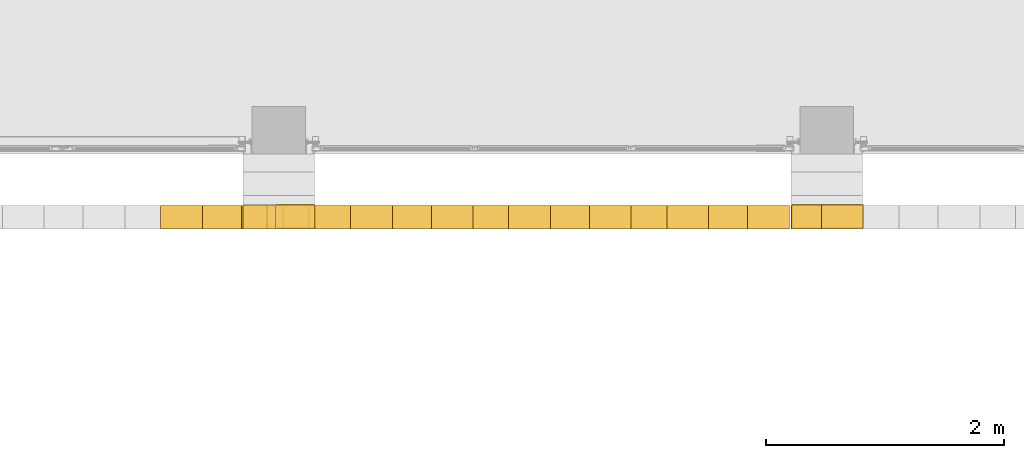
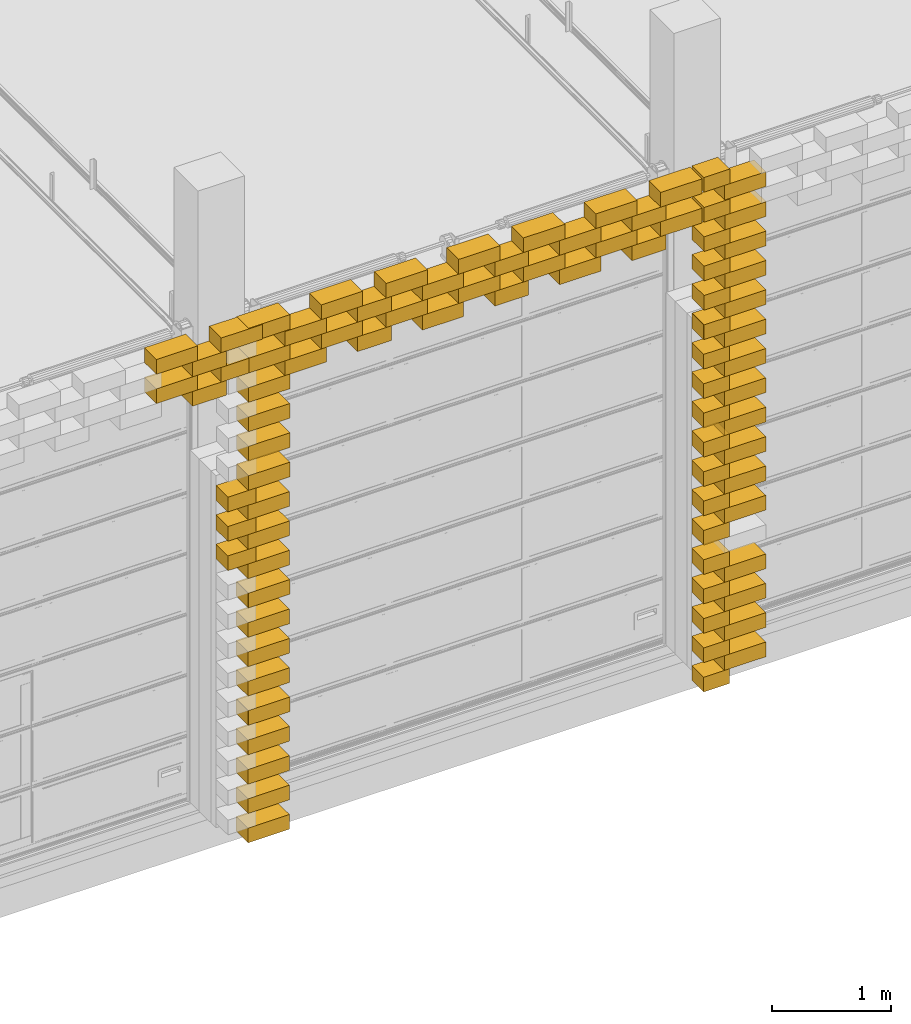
# One storey, part 52 of 62: 91 railings.
"""IFC2X3 building model written with IfcOpenShell, lengths in millimetres."""

from ifc_helpers import new_model, entity, si_unit, converted_unit, derived_unit, money_unit, direction, frame, origin_with_axes, place, context, subcontext, project, spatial, polyline, outline, extrude, material, type_object, element, save


model = new_model("IFC2X3")

# Units and contexts
model_context = context("Model", 3, precision=0.01, world=origin_with_axes(), true_north=direction((0.0, 1.0)))
body_context = subcontext(model_context, "Body", "Model", "MODEL_VIEW")
ifc_project = project(units=[si_unit("LENGTHUNIT", "METRE", prefix="MILLI"), si_unit("AREAUNIT", "SQUARE_METRE"), si_unit("VOLUMEUNIT", "CUBIC_METRE"), converted_unit("PLANEANGLEUNIT", "DEGREE", entity("IfcPlaneAngleMeasure", 0.0174532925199), si_unit("PLANEANGLEUNIT", "RADIAN"), dimensions=[0, 0, 0, 0, 0, 0, 0]), si_unit("SOLIDANGLEUNIT", "STERADIAN"), money_unit("EUR"), converted_unit("TIMEUNIT", "Year", entity("IfcTimeMeasure", 31556926.0), si_unit("TIMEUNIT", "SECOND"), dimensions=[0, 0, 1, 0, 0, 0, 0]), si_unit("MASSUNIT", "GRAM", prefix="KILO"), si_unit("THERMODYNAMICTEMPERATUREUNIT", "DEGREE_CELSIUS"), si_unit("LUMINOUSINTENSITYUNIT", "LUMEN"), si_unit("ENERGYUNIT", "JOULE", prefix="MEGA"), derived_unit("THERMALCONDUCTANCEUNIT", [(si_unit("POWERUNIT", "WATT"), 1), (si_unit("LENGTHUNIT", "METRE"), -1), (si_unit("THERMODYNAMICTEMPERATUREUNIT", "KELVIN"), -1)]), derived_unit("SPECIFICHEATCAPACITYUNIT", [(si_unit("ENERGYUNIT", "JOULE"), 1), (si_unit("MASSUNIT", "GRAM", prefix="KILO"), -1), (si_unit("THERMODYNAMICTEMPERATUREUNIT", "KELVIN"), -1)]), derived_unit("MASSDENSITYUNIT", [(si_unit("MASSUNIT", "GRAM", prefix="KILO"), 1), (si_unit("VOLUMEUNIT", "CUBIC_METRE"), -1)])], contexts=[model_context])

# Site, building, storey
site_placement = place(None, origin_with_axes())
site = spatial("IfcSite", under=ifc_project, at=site_placement, Name="KIRDE 14, ELVA", CompositionType="ELEMENT")
building_placement = place(site_placement, origin_with_axes())
building = spatial("IfcBuilding", under=site, at=building_placement, Name="PPA ja Päästeameti ühishoone", CompositionType="ELEMENT")
storey_placement = place(building_placement, origin_with_axes())
storey = spatial("IfcBuildingStorey", under=building, at=storey_placement, Name="Esimene korrus", CompositionType="ELEMENT", Elevation=0.0)

# Railings
ifc_material = material(Name="Air Space")
railing_type = type_object("IfcRailingType", Name="Air Space 200", PredefinedType="NOTDEFINED")
railing_1_placement = place(storey_placement, frame((14899.2963098, -431.000104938, 1100.0), z_axis=(0.0, 0.0, 1.0), x_axis=(1.0, 2.32830643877e-09, 0.0)))
element("IfcRailing", 1, at=railing_1_placement, inside=storey, type_object=railing_type, material=ifc_material, Name="plokk", PredefinedType="NOTDEFINED", context=body_context, shape_type="SweptSolid", body=[
    extrude(outline(polyline([(0.0, -200.0), (399.999999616, -200.0), (399.999999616, 0.0), (0.0, 0.0), (0.0, -200.0)])), origin_with_axes(), (0.0, 0.0, 1.0), 150.0),
])
railing_2_placement = place(storey_placement, frame((14895.6964951, -431.000104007, 800.0), z_axis=(0.0, 0.0, 1.0), x_axis=(1.0, 0.0, 0.0)))
element("IfcRailing", 2, at=railing_2_placement, inside=storey, type_object=railing_type, material=ifc_material, Name="plokk", PredefinedType="NOTDEFINED", context=body_context, shape_type="SweptSolid", body=[
    extrude(outline(polyline([(0.0, -200.0), (400.00000078, -200.0), (400.00000078, 0.0), (0.0, 0.0), (0.0, -200.0)])), origin_with_axes(), (0.0, 0.0, 1.0), 150.0),
])
railing_3_placement = place(storey_placement, frame((19300.1727355, -431.000104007, 500.0), z_axis=(0.0, 0.0, 1.0), x_axis=(1.0, 3.72529028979e-09, 0.0)))
element("IfcRailing", 3, at=railing_3_placement, inside=storey, type_object=railing_type, material=ifc_material, Name="plokk", PredefinedType="NOTDEFINED", context=body_context, shape_type="SweptSolid", body=[
    extrude(outline(polyline([(0.0, -200.0), (250.000000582, -200.0), (250.000000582, 0.0), (0.0, 0.0), (0.0, -200.0)])), origin_with_axes(), (0.0, 0.0, 1.0), 150.0),
])
railing_4_placement = place(storey_placement, frame((14895.6964951, -431.000104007, -100.0), z_axis=(0.0, 0.0, 1.0), x_axis=(1.0, 0.0, 0.0)))
element("IfcRailing", 4, at=railing_4_placement, inside=storey, type_object=railing_type, material=ifc_material, Name="plokk", PredefinedType="NOTDEFINED", context=body_context, shape_type="SweptSolid", body=[
    extrude(outline(polyline([(0.0, -200.0), (400.00000078, -200.0), (400.00000078, 0.0), (0.0, 0.0), (0.0, -200.0)])), origin_with_axes(), (0.0, 0.0, 1.0), 150.0),
])
for number, where, z_axis, x_axis in (
    (5, (19300.1727355, -431.000104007, 200.0), (0.0, 0.0, 1.0), (1.0, 3.72529028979e-09, 0.0)),
    (6, (19300.1727355, -431.000104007, -100.0), (0.0, 0.0, 1.0), (1.0, 3.72529028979e-09, 0.0)),
):
    element("IfcRailing", number, at=place(storey_placement, frame(where, z_axis=z_axis, x_axis=x_axis)), inside=storey, type_object=railing_type, material=ifc_material, Name="plokk", PredefinedType="NOTDEFINED", context=body_context, shape_type="SweptSolid", body=[
        extrude(outline(polyline([(0.0, -200.0), (250.000000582, -200.0), (250.000000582, 0.0), (0.0, 0.0), (0.0, -200.0)])), origin_with_axes(), (0.0, 0.0, 1.0), 150.0),
    ])
for number, where, z_axis, x_axis in (
    (7, (19500.1727354, -431.000104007, 2750.0), (0.0, 0.0, 1.0), (1.0, 0.0, 0.0)),
    (8, (19500.1727354, -431.000104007, 3350.0), (0.0, 0.0, 1.0), (1.0, 0.0, 0.0)),
):
    element("IfcRailing", number, at=place(storey_placement, frame(where, z_axis=z_axis, x_axis=x_axis)), inside=storey, type_object=railing_type, material=ifc_material, Name="plokk", PredefinedType="NOTDEFINED", context=body_context, shape_type="SweptSolid", body=[
        extrude(outline(polyline([(0.0, -200.0), (400.00000078, -200.0), (400.00000078, 0.0), (0.0, 0.0), (0.0, -200.0)])), origin_with_axes(), (0.0, 0.0, 1.0), 150.0),
    ])
railing_5_placement = place(storey_placement, frame((19306.7115337, -422.760602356, 5000.0), z_axis=(0.0, 0.0, 1.0), x_axis=(1.0, 3.72529028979e-09, 0.0)))
element("IfcRailing", 9, at=railing_5_placement, inside=storey, type_object=railing_type, material=ifc_material, Name="plokk", PredefinedType="NOTDEFINED", context=body_context, shape_type="SweptSolid", body=[
    extrude(outline(polyline([(0.0, -200.0), (250.000000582, -200.0), (250.000000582, 0.0), (0.0, 0.0), (0.0, -200.0)])), origin_with_axes(), (0.0, 0.0, 1.0), 150.0),
])
for number, where, z_axis, x_axis in (
    (10, (19506.7115336, -422.760602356, 4850.0), (0.0, 0.0, 1.0), (1.0, 0.0, 0.0)),
    (11, (19503.7725494, -431.000104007, 3950.0), (0.0, 0.0, 1.0), (1.0, 0.0, 0.0)),
):
    element("IfcRailing", number, at=place(storey_placement, frame(where, z_axis=z_axis, x_axis=x_axis)), inside=storey, type_object=railing_type, material=ifc_material, Name="plokk", PredefinedType="NOTDEFINED", context=body_context, shape_type="SweptSolid", body=[
        extrude(outline(polyline([(0.0, -200.0), (400.00000078, -200.0), (400.00000078, 0.0), (0.0, 0.0), (0.0, -200.0)])), origin_with_axes(), (0.0, 0.0, 1.0), 150.0),
    ])
railing_6_placement = place(storey_placement, frame((14899.2963091, -431.000104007, 3500.0), z_axis=(0.0, 0.0, 1.0), x_axis=(1.0, 0.0, 0.0)))
element("IfcRailing", 12, at=railing_6_placement, inside=storey, type_object=railing_type, material=ifc_material, Name="plokk", PredefinedType="NOTDEFINED", context=body_context, shape_type="SweptSolid", body=[
    extrude(outline(polyline([(2.32830643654e-07, -200.0), (400.000001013, -200.0), (400.00000078, 0.0), (0.0, 0.0), (2.32830643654e-07, -200.0)])), origin_with_axes(), (0.0, 0.0, 1.0), 150.0),
])
for number, where, z_axis, x_axis in (
    (13, (14899.2963091, -431.000104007, 3800.0), (0.0, 0.0, 1.0), (1.0, 0.0, 0.0)),
    (14, (14899.2963091, -431.000104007, 4100.0), (0.0, 0.0, 1.0), (1.0, 0.0, 0.0)),
    (15, (14899.2963091, -431.000104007, 4400.0), (0.0, 0.0, 1.0), (1.0, 0.0, 0.0)),
):
    element("IfcRailing", number, at=place(storey_placement, frame(where, z_axis=z_axis, x_axis=x_axis)), inside=storey, type_object=railing_type, material=ifc_material, Name="plokk", PredefinedType="NOTDEFINED", context=body_context, shape_type="SweptSolid", body=[
        extrude(outline(polyline([(0.0, -200.0), (400.00000078, -200.0), (400.00000078, 0.0), (0.0, 0.0), (0.0, -200.0)])), origin_with_axes(), (0.0, 0.0, 1.0), 150.0),
    ])
railing_7_placement = place(storey_placement, frame((14902.8961238, -431.000104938, 4700.0), z_axis=(0.0, 0.0, 1.0), x_axis=(1.0, 2.32830643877e-09, 0.0)))
element("IfcRailing", 16, at=railing_7_placement, inside=storey, type_object=railing_type, material=ifc_material, Name="plokk", PredefinedType="NOTDEFINED", context=body_context, shape_type="SweptSolid", body=[
    extrude(outline(polyline([(0.0, -200.0), (399.999999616, -200.0), (399.999999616, 0.0), (0.0, 0.0), (0.0, -200.0)])), origin_with_axes(), (0.0, 0.0, 1.0), 150.0),
])
for number, where, z_axis, x_axis in (
    (17, (19503.7725494, -431.000104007, 3650.0), (0.0, 0.0, 1.0), (1.0, 0.0, 0.0)),
    (18, (19503.7725494, -431.000104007, 4250.0), (0.0, 0.0, 1.0), (1.0, 0.0, 0.0)),
    (19, (19503.7725494, -431.000104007, 4550.0), (0.0, 0.0, 1.0), (1.0, 0.0, 0.0)),
):
    element("IfcRailing", number, at=place(storey_placement, frame(where, z_axis=z_axis, x_axis=x_axis)), inside=storey, type_object=railing_type, material=ifc_material, Name="plokk", PredefinedType="NOTDEFINED", context=body_context, shape_type="SweptSolid", body=[
        extrude(outline(polyline([(0.0, -200.0), (400.00000078, -200.0), (400.00000078, 0.0), (0.0, 0.0), (0.0, -200.0)])), origin_with_axes(), (0.0, 0.0, 1.0), 150.0),
    ])
railing_8_placement = place(storey_placement, frame((19303.7725496, -431.000104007, 3500.0), z_axis=(0.0, 0.0, 1.0), x_axis=(1.0, 3.72529028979e-09, 0.0)))
element("IfcRailing", 20, at=railing_8_placement, inside=storey, type_object=railing_type, material=ifc_material, Name="plokk", PredefinedType="NOTDEFINED", context=body_context, shape_type="SweptSolid", body=[
    extrude(outline(polyline([(0.0, -200.0), (250.000000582, -200.0), (250.000000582, 0.0), (0.0, 0.0), (0.0, -200.0)])), origin_with_axes(), (0.0, 0.0, 1.0), 150.0),
])
railing_9_placement = place(storey_placement, frame((16930.1007614, -431.000101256, 5000.0), z_axis=(0.0, 0.0, 1.0), x_axis=(1.0, -2.32830643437e-09, 0.0)))
element("IfcRailing", 21, at=railing_9_placement, inside=storey, type_object=railing_type, material=ifc_material, Name="plokk", PredefinedType="NOTDEFINED", context=body_context, shape_type="SweptSolid", body=[
    extrude(outline(polyline([(0.0, -200.0), (400.000000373, -200.0), (400.000000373, 0.0), (0.0, 0.0), (0.0, -200.0)])), origin_with_axes(), (0.0, 0.0, 1.0), 150.0),
])
railing_10_placement = place(storey_placement, frame((14895.6964951, -431.000104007, 2300.0), z_axis=(0.0, 0.0, 1.0), x_axis=(1.0, 0.0, 0.0)))
element("IfcRailing", 22, at=railing_10_placement, inside=storey, type_object=railing_type, material=ifc_material, Name="plokk", PredefinedType="NOTDEFINED", context=body_context, shape_type="SweptSolid", body=[
    extrude(outline(polyline([(0.0, -200.0), (400.00000078, -200.0), (400.00000078, 0.0), (0.0, 0.0), (0.0, -200.0)])), origin_with_axes(), (0.0, 0.0, 1.0), 150.0),
])
railing_11_placement = place(storey_placement, frame((15602.8961252, -431.00010178, 4700.0), z_axis=(0.0, 0.0, 1.0), x_axis=(1.0, -2.32830643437e-09, 0.0)))
element("IfcRailing", 23, at=railing_11_placement, inside=storey, type_object=railing_type, material=ifc_material, Name="plokk", PredefinedType="NOTDEFINED", context=body_context, shape_type="SweptSolid", body=[
    extrude(outline(polyline([(0.0, -200.0), (400.000000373, -200.0), (400.000000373, 0.0), (0.0, 0.0), (0.0, -200.0)])), origin_with_axes(), (0.0, 0.0, 1.0), 150.0),
])
railing_12_placement = place(storey_placement, frame((19300.1727355, -431.000104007, 800.0), z_axis=(0.0, 0.0, 1.0), x_axis=(1.0, 3.72529028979e-09, 0.0)))
element("IfcRailing", 24, at=railing_12_placement, inside=storey, type_object=railing_type, material=ifc_material, Name="plokk", PredefinedType="NOTDEFINED", context=body_context, shape_type="SweptSolid", body=[
    extrude(outline(polyline([(0.0, -200.0), (250.000000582, -200.0), (250.000000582, 0.0), (0.0, 0.0), (0.0, -200.0)])), origin_with_axes(), (0.0, 0.0, 1.0), 150.0),
])
for number, where, z_axis, x_axis in (
    (25, (19500.1727354, -431.000104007, 950.0), (0.0, 0.0, 1.0), (1.0, 0.0, 0.0)),
    (26, (19500.1727354, -431.000104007, 650.0), (0.0, 0.0, 1.0), (1.0, 0.0, 0.0)),
):
    element("IfcRailing", number, at=place(storey_placement, frame(where, z_axis=z_axis, x_axis=x_axis)), inside=storey, type_object=railing_type, material=ifc_material, Name="plokk", PredefinedType="NOTDEFINED", context=body_context, shape_type="SweptSolid", body=[
        extrude(outline(polyline([(0.0, -200.0), (400.00000078, -200.0), (400.00000078, 0.0), (0.0, 0.0), (0.0, -200.0)])), origin_with_axes(), (0.0, 0.0, 1.0), 150.0),
    ])
for number, where, z_axis, x_axis in (
    (27, (19300.1727355, -431.000104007, 1100.0), (0.0, 0.0, 1.0), (1.0, 3.72529028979e-09, 0.0)),
    (28, (19300.1727355, -431.000104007, 3500.0), (0.0, 0.0, 1.0), (1.0, 3.72529028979e-09, 0.0)),
):
    element("IfcRailing", number, at=place(storey_placement, frame(where, z_axis=z_axis, x_axis=x_axis)), inside=storey, type_object=railing_type, material=ifc_material, Name="plokk", PredefinedType="NOTDEFINED", context=body_context, shape_type="SweptSolid", body=[
        extrude(outline(polyline([(0.0, -200.0), (250.000000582, -200.0), (250.000000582, 0.0), (0.0, 0.0), (0.0, -200.0)])), origin_with_axes(), (0.0, 0.0, 1.0), 150.0),
    ])
railing_13_placement = place(storey_placement, frame((14895.6964951, -431.000104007, 2600.0), z_axis=(0.0, 0.0, 1.0), x_axis=(1.0, 0.0, 0.0)))
element("IfcRailing", 29, at=railing_13_placement, inside=storey, type_object=railing_type, material=ifc_material, Name="plokk", PredefinedType="NOTDEFINED", context=body_context, shape_type="SweptSolid", body=[
    extrude(outline(polyline([(0.0, -200.0), (400.00000078, -200.0), (400.00000078, 0.0), (0.0, 0.0), (0.0, -200.0)])), origin_with_axes(), (0.0, 0.0, 1.0), 150.0),
])
railing_14_placement = place(storey_placement, frame((17280.1007612, -431.000102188, 4850.0), z_axis=(0.0, 0.0, 1.0), x_axis=(1.0, 0.0, 0.0)))
element("IfcRailing", 30, at=railing_14_placement, inside=storey, type_object=railing_type, material=ifc_material, Name="plokk", PredefinedType="NOTDEFINED", context=body_context, shape_type="SweptSolid", body=[
    extrude(outline(polyline([(0.0, -200.0), (327.204635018, -200.0), (327.204635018, 0.0), (0.0, 0.0), (0.0, -200.0)])), origin_with_axes(), (0.0, 0.0, 1.0), 150.0),
])
railing_15_placement = place(storey_placement, frame((17907.3053981, -431.000102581, 4550.0), z_axis=(0.0, 0.0, 1.0), x_axis=(1.0, -2.32830643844e-09, 0.0)))
element("IfcRailing", 31, at=railing_15_placement, inside=storey, type_object=railing_type, material=ifc_material, Name="plokk", PredefinedType="NOTDEFINED", context=body_context, shape_type="SweptSolid", body=[
    extrude(outline(polyline([(0.0, -200.0), (399.999999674, -200.0), (399.999999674, 0.0), (0.0, 0.0), (0.0, -200.0)])), origin_with_axes(), (0.0, 0.0, 1.0), 150.0),
])
railing_16_placement = place(storey_placement, frame((18257.3053977, -431.000100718, 4700.0), z_axis=(0.0, 0.0, 1.0), x_axis=(1.0, -2.32830643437e-09, 0.0)))
element("IfcRailing", 32, at=railing_16_placement, inside=storey, type_object=railing_type, material=ifc_material, Name="plokk", PredefinedType="NOTDEFINED", context=body_context, shape_type="SweptSolid", body=[
    extrude(outline(polyline([(0.0, -200.0), (400.000000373, -200.0), (400.000000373, 0.0), (0.0, 0.0), (0.0, -200.0)])), origin_with_axes(), (0.0, 0.0, 1.0), 150.0),
])
railing_17_placement = place(storey_placement, frame((18607.3053974, -431.000101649, 4550.0), z_axis=(0.0, 0.0, 1.0), x_axis=(1.0, 0.0, 0.0)))
element("IfcRailing", 33, at=railing_17_placement, inside=storey, type_object=railing_type, material=ifc_material, Name="plokk", PredefinedType="NOTDEFINED", context=body_context, shape_type="SweptSolid", body=[
    extrude(outline(polyline([(0.0, -200.0), (327.204635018, -200.0), (327.204635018, 0.0), (0.0, 0.0), (0.0, -200.0)])), origin_with_axes(), (0.0, 0.0, 1.0), 150.0),
])
for number, where, z_axis, x_axis in (
    (34, (18884.5100327, -431.000098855, 4700.0), (0.0, 0.0, 1.0), (1.0, -2.32830643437e-09, 0.0)),
    (35, (18884.5100327, -431.000098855, 5000.0), (0.0, 0.0, 1.0), (1.0, -2.32830643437e-09, 0.0)),
):
    element("IfcRailing", number, at=place(storey_placement, frame(where, z_axis=z_axis, x_axis=x_axis)), inside=storey, type_object=railing_type, material=ifc_material, Name="plokk", PredefinedType="NOTDEFINED", context=body_context, shape_type="SweptSolid", body=[
        extrude(outline(polyline([(0.0, -200.0), (400.000000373, -200.0), (400.000000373, 0.0), (0.0, 0.0), (0.0, -200.0)])), origin_with_axes(), (0.0, 0.0, 1.0), 150.0),
    ])
railing_18_placement = place(storey_placement, frame((15952.8961249, -431.000102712, 4550.0), z_axis=(0.0, 0.0, 1.0), x_axis=(1.0, 0.0, 0.0)))
element("IfcRailing", 36, at=railing_18_placement, inside=storey, type_object=railing_type, material=ifc_material, Name="plokk", PredefinedType="NOTDEFINED", context=body_context, shape_type="SweptSolid", body=[
    extrude(outline(polyline([(0.0, -200.0), (327.204635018, -200.0), (327.204635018, 0.0), (0.0, 0.0), (0.0, -200.0)])), origin_with_axes(), (0.0, 0.0, 1.0), 150.0),
])
for number, where, z_axis, x_axis in (
    (37, (16230.1007602, -431.000099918, 4700.0), (0.0, 0.0, 1.0), (1.0, -2.32830643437e-09, 0.0)),
    (38, (16230.1007602, -431.000099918, 5000.0), (0.0, 0.0, 1.0), (1.0, -2.32830643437e-09, 0.0)),
):
    element("IfcRailing", number, at=place(storey_placement, frame(where, z_axis=z_axis, x_axis=x_axis)), inside=storey, type_object=railing_type, material=ifc_material, Name="plokk", PredefinedType="NOTDEFINED", context=body_context, shape_type="SweptSolid", body=[
        extrude(outline(polyline([(0.0, -200.0), (400.000000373, -200.0), (400.000000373, 0.0), (0.0, 0.0), (0.0, -200.0)])), origin_with_axes(), (0.0, 0.0, 1.0), 150.0),
    ])
railing_19_placement = place(storey_placement, frame((15252.8961257, -431.000103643, 4850.0), z_axis=(0.0, 0.0, 1.0), x_axis=(1.0, -2.32830643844e-09, 0.0)))
element("IfcRailing", 39, at=railing_19_placement, inside=storey, type_object=railing_type, material=ifc_material, Name="plokk", PredefinedType="NOTDEFINED", context=body_context, shape_type="SweptSolid", body=[
    extrude(outline(polyline([(0.0, -200.0), (399.999999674, -200.0), (399.999999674, 0.0), (0.0, 0.0), (0.0, -200.0)])), origin_with_axes(), (0.0, 0.0, 1.0), 150.0),
])
railing_20_placement = place(storey_placement, frame((15602.8961252, -431.00010178, 5000.0), z_axis=(0.0, 0.0, 1.0), x_axis=(1.0, -2.32830643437e-09, 0.0)))
element("IfcRailing", 40, at=railing_20_placement, inside=storey, type_object=railing_type, material=ifc_material, Name="plokk", PredefinedType="NOTDEFINED", context=body_context, shape_type="SweptSolid", body=[
    extrude(outline(polyline([(0.0, -200.0), (400.000000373, -200.0), (400.000000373, 0.0), (0.0, 0.0), (0.0, -200.0)])), origin_with_axes(), (0.0, 0.0, 1.0), 150.0),
])
railing_21_placement = place(storey_placement, frame((15952.8961249, -431.000102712, 4850.0), z_axis=(0.0, 0.0, 1.0), x_axis=(1.0, 0.0, 0.0)))
element("IfcRailing", 41, at=railing_21_placement, inside=storey, type_object=railing_type, material=ifc_material, Name="plokk", PredefinedType="NOTDEFINED", context=body_context, shape_type="SweptSolid", body=[
    extrude(outline(polyline([(0.0, -200.0), (327.204635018, -200.0), (327.204635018, 0.0), (0.0, 0.0), (0.0, -200.0)])), origin_with_axes(), (0.0, 0.0, 1.0), 150.0),
])
railing_22_placement = place(storey_placement, frame((16580.1007619, -431.000103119, 4550.0), z_axis=(0.0, 0.0, 1.0), x_axis=(1.0, -2.32830643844e-09, 0.0)))
element("IfcRailing", 42, at=railing_22_placement, inside=storey, type_object=railing_type, material=ifc_material, Name="plokk", PredefinedType="NOTDEFINED", context=body_context, shape_type="SweptSolid", body=[
    extrude(outline(polyline([(0.0, -200.0), (399.999999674, -200.0), (399.999999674, 0.0), (0.0, 0.0), (0.0, -200.0)])), origin_with_axes(), (0.0, 0.0, 1.0), 150.0),
])
railing_23_placement = place(storey_placement, frame((16930.1007614, -431.000101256, 4700.0), z_axis=(0.0, 0.0, 1.0), x_axis=(1.0, -2.32830643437e-09, 0.0)))
element("IfcRailing", 43, at=railing_23_placement, inside=storey, type_object=railing_type, material=ifc_material, Name="plokk", PredefinedType="NOTDEFINED", context=body_context, shape_type="SweptSolid", body=[
    extrude(outline(polyline([(0.0, -200.0), (400.000000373, -200.0), (400.000000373, 0.0), (0.0, 0.0), (0.0, -200.0)])), origin_with_axes(), (0.0, 0.0, 1.0), 150.0),
])
railing_24_placement = place(storey_placement, frame((17280.1007612, -431.000102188, 4550.0), z_axis=(0.0, 0.0, 1.0), x_axis=(1.0, 0.0, 0.0)))
element("IfcRailing", 44, at=railing_24_placement, inside=storey, type_object=railing_type, material=ifc_material, Name="plokk", PredefinedType="NOTDEFINED", context=body_context, shape_type="SweptSolid", body=[
    extrude(outline(polyline([(0.0, -200.0), (327.204635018, -200.0), (327.204635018, 0.0), (0.0, 0.0), (0.0, -200.0)])), origin_with_axes(), (0.0, 0.0, 1.0), 150.0),
])
for number, where, z_axis, x_axis in (
    (45, (17557.3053965, -431.000099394, 4700.0), (0.0, 0.0, 1.0), (1.0, -2.32830643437e-09, 0.0)),
    (46, (17557.3053965, -431.000099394, 5000.0), (0.0, 0.0, 1.0), (1.0, -2.32830643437e-09, 0.0)),
):
    element("IfcRailing", number, at=place(storey_placement, frame(where, z_axis=z_axis, x_axis=x_axis)), inside=storey, type_object=railing_type, material=ifc_material, Name="plokk", PredefinedType="NOTDEFINED", context=body_context, shape_type="SweptSolid", body=[
        extrude(outline(polyline([(0.0, -200.0), (400.000000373, -200.0), (400.000000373, 0.0), (0.0, 0.0), (0.0, -200.0)])), origin_with_axes(), (0.0, 0.0, 1.0), 150.0),
    ])
railing_25_placement = place(storey_placement, frame((16580.1007619, -431.000103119, 4850.0), z_axis=(0.0, 0.0, 1.0), x_axis=(1.0, -2.32830643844e-09, 0.0)))
element("IfcRailing", 47, at=railing_25_placement, inside=storey, type_object=railing_type, material=ifc_material, Name="plokk", PredefinedType="NOTDEFINED", context=body_context, shape_type="SweptSolid", body=[
    extrude(outline(polyline([(0.0, -200.0), (399.999999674, -200.0), (399.999999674, 0.0), (0.0, 0.0), (0.0, -200.0)])), origin_with_axes(), (0.0, 0.0, 1.0), 150.0),
])
for number, where, z_axis, x_axis in (
    (48, (14895.6964951, -431.000104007, 2900.0), (0.0, 0.0, 1.0), (1.0, 0.0, 0.0)),
    (49, (14895.6964951, -431.000104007, 3200.0), (0.0, 0.0, 1.0), (1.0, 0.0, 0.0)),
):
    element("IfcRailing", number, at=place(storey_placement, frame(where, z_axis=z_axis, x_axis=x_axis)), inside=storey, type_object=railing_type, material=ifc_material, Name="plokk", PredefinedType="NOTDEFINED", context=body_context, shape_type="SweptSolid", body=[
        extrude(outline(polyline([(0.0, -200.0), (400.00000078, -200.0), (400.00000078, 0.0), (0.0, 0.0), (0.0, -200.0)])), origin_with_axes(), (0.0, 0.0, 1.0), 150.0),
    ])
railing_26_placement = place(storey_placement, frame((14899.2963098, -431.000104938, 3500.0), z_axis=(0.0, 0.0, 1.0), x_axis=(1.0, 2.32830643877e-09, 0.0)))
element("IfcRailing", 50, at=railing_26_placement, inside=storey, type_object=railing_type, material=ifc_material, Name="plokk", PredefinedType="NOTDEFINED", context=body_context, shape_type="SweptSolid", body=[
    extrude(outline(polyline([(-2.32832420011e-07, -200.0), (399.999999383, -200.0), (399.999999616, 0.0), (0.0, 0.0), (-2.32832420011e-07, -200.0)])), origin_with_axes(), (0.0, 0.0, 1.0), 150.0),
])
for number, where, z_axis, x_axis in (
    (51, (14895.6964951, -431.000104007, 500.0), (0.0, 0.0, 1.0), (1.0, 0.0, 0.0)),
    (52, (14895.6964951, -431.000104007, 200.0), (0.0, 0.0, 1.0), (1.0, 0.0, 0.0)),
):
    element("IfcRailing", number, at=place(storey_placement, frame(where, z_axis=z_axis, x_axis=x_axis)), inside=storey, type_object=railing_type, material=ifc_material, Name="plokk", PredefinedType="NOTDEFINED", context=body_context, shape_type="SweptSolid", body=[
        extrude(outline(polyline([(0.0, -200.0), (400.00000078, -200.0), (400.00000078, 0.0), (0.0, 0.0), (0.0, -200.0)])), origin_with_axes(), (0.0, 0.0, 1.0), 150.0),
    ])
railing_27_placement = place(storey_placement, frame((18257.3053977, -431.000100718, 5000.0), z_axis=(0.0, 0.0, 1.0), x_axis=(1.0, -2.32830643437e-09, 0.0)))
element("IfcRailing", 53, at=railing_27_placement, inside=storey, type_object=railing_type, material=ifc_material, Name="plokk", PredefinedType="NOTDEFINED", context=body_context, shape_type="SweptSolid", body=[
    extrude(outline(polyline([(0.0, -200.0), (400.000000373, -200.0), (400.000000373, 0.0), (0.0, 0.0), (0.0, -200.0)])), origin_with_axes(), (0.0, 0.0, 1.0), 150.0),
])
for number, where, z_axis, x_axis in (
    (54, (19300.1727355, -431.000104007, 1100.0), (0.0, 0.0, 1.0), (1.0, 3.72529028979e-09, 0.0)),
    (55, (19300.1727355, -431.000104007, 1700.0), (0.0, 0.0, 1.0), (1.0, 3.72529028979e-09, 0.0)),
    (56, (19300.1727355, -431.000104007, 1400.0), (0.0, 0.0, 1.0), (1.0, 3.72529028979e-09, 0.0)),
    (57, (19300.1727355, -431.000104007, 2000.0), (0.0, 0.0, 1.0), (1.0, 3.72529028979e-09, 0.0)),
    (58, (19300.1727355, -431.000104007, 2300.0), (0.0, 0.0, 1.0), (1.0, 3.72529028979e-09, 0.0)),
    (59, (19300.1727355, -431.000104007, 3200.0), (0.0, 0.0, 1.0), (1.0, 3.72529028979e-09, 0.0)),
):
    element("IfcRailing", number, at=place(storey_placement, frame(where, z_axis=z_axis, x_axis=x_axis)), inside=storey, type_object=railing_type, material=ifc_material, Name="plokk", PredefinedType="NOTDEFINED", context=body_context, shape_type="SweptSolid", body=[
        extrude(outline(polyline([(0.0, -200.0), (250.000000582, -200.0), (250.000000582, 0.0), (0.0, 0.0), (0.0, -200.0)])), origin_with_axes(), (0.0, 0.0, 1.0), 150.0),
    ])
for number, where, z_axis, x_axis in (
    (60, (14700.1727363, -431.000104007, 2750.0), (0.0, 0.0, 1.0), (1.0, 0.0, 0.0)),
    (61, (14700.1727363, -431.000104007, 3050.0), (0.0, 0.0, 1.0), (1.0, 0.0, 0.0)),
    (62, (14700.1727363, -431.000104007, 3350.0), (0.0, 0.0, 1.0), (1.0, 0.0, 0.0)),
):
    element("IfcRailing", number, at=place(storey_placement, frame(where, z_axis=z_axis, x_axis=x_axis)), inside=storey, type_object=railing_type, material=ifc_material, Name="plokk", PredefinedType="NOTDEFINED", context=body_context, shape_type="SweptSolid", body=[
        extrude(outline(polyline([(0.0, -200.0), (272.79536461, -200.0), (272.79536461, 0.0), (0.0, 0.0), (0.0, -200.0)])), origin_with_axes(), (0.0, 0.0, 1.0), 150.0),
    ])
for number, where, z_axis, x_axis in (
    (63, (19300.1727355, -431.000104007, 2300.0), (0.0, 0.0, 1.0), (1.0, 3.72529028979e-09, 0.0)),
    (64, (19300.1727355, -431.000104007, 2600.0), (0.0, 0.0, 1.0), (1.0, 3.72529028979e-09, 0.0)),
    (65, (19300.1727355, -431.000104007, 2900.0), (0.0, 0.0, 1.0), (1.0, 3.72529028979e-09, 0.0)),
):
    element("IfcRailing", number, at=place(storey_placement, frame(where, z_axis=z_axis, x_axis=x_axis)), inside=storey, type_object=railing_type, material=ifc_material, Name="plokk", PredefinedType="NOTDEFINED", context=body_context, shape_type="SweptSolid", body=[
        extrude(outline(polyline([(0.0, -200.0), (250.000000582, -200.0), (250.000000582, 0.0), (0.0, 0.0), (0.0, -200.0)])), origin_with_axes(), (0.0, 0.0, 1.0), 150.0),
    ])
for number, where, z_axis, x_axis in (
    (66, (19500.1727354, -431.000104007, 3050.0), (0.0, 0.0, 1.0), (1.0, 0.0, 0.0)),
    (67, (19500.1727354, -431.000104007, 350.0), (0.0, 0.0, 1.0), (1.0, 0.0, 0.0)),
    (68, (19500.1727354, -431.000104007, 50.0), (0.0, 0.0, 1.0), (1.0, 0.0, 0.0)),
    (69, (19500.1727354, -431.000104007, 2450.0), (0.0, 0.0, 1.0), (1.0, 0.0, 0.0)),
):
    element("IfcRailing", number, at=place(storey_placement, frame(where, z_axis=z_axis, x_axis=x_axis)), inside=storey, type_object=railing_type, material=ifc_material, Name="plokk", PredefinedType="NOTDEFINED", context=body_context, shape_type="SweptSolid", body=[
        extrude(outline(polyline([(0.0, -200.0), (400.00000078, -200.0), (400.00000078, 0.0), (0.0, 0.0), (0.0, -200.0)])), origin_with_axes(), (0.0, 0.0, 1.0), 150.0),
    ])
railing_28_placement = place(storey_placement, frame((14008.1818238, -431.000102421, 4700.0), z_axis=(0.0, 0.0, 1.0), x_axis=(1.0, -2.32830643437e-09, 0.0)))
element("IfcRailing", 70, at=railing_28_placement, inside=storey, type_object=railing_type, material=ifc_material, Name="plokk", PredefinedType="NOTDEFINED", context=body_context, shape_type="SweptSolid", body=[
    extrude(outline(polyline([(0.0, -200.0), (400.000000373, -200.0), (400.000000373, 0.0), (0.0, 0.0), (0.0, -200.0)])), origin_with_axes(), (0.0, 0.0, 1.0), 150.0),
])
railing_29_placement = place(storey_placement, frame((14358.1818235, -431.000103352, 4550.0), z_axis=(0.0, 0.0, 1.0), x_axis=(1.0, 0.0, 0.0)))
element("IfcRailing", 71, at=railing_29_placement, inside=storey, type_object=railing_type, material=ifc_material, Name="plokk", PredefinedType="NOTDEFINED", context=body_context, shape_type="SweptSolid", body=[
    extrude(outline(polyline([(0.0, -200.0), (327.204635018, -200.0), (327.204635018, 0.0), (0.0, 0.0), (0.0, -200.0)])), origin_with_axes(), (0.0, 0.0, 1.0), 150.0),
])
for number, where, z_axis, x_axis in (
    (72, (14635.3864588, -431.000100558, 4700.0), (0.0, 0.0, 1.0), (1.0, -2.32830643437e-09, 0.0)),
    (73, (14635.3864588, -431.000100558, 5000.0), (0.0, 0.0, 1.0), (1.0, -2.32830643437e-09, 0.0)),
    (74, (14008.1818238, -431.000102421, 5000.0), (0.0, 0.0, 1.0), (1.0, -2.32830643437e-09, 0.0)),
):
    element("IfcRailing", number, at=place(storey_placement, frame(where, z_axis=z_axis, x_axis=x_axis)), inside=storey, type_object=railing_type, material=ifc_material, Name="plokk", PredefinedType="NOTDEFINED", context=body_context, shape_type="SweptSolid", body=[
        extrude(outline(polyline([(0.0, -200.0), (400.000000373, -200.0), (400.000000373, 0.0), (0.0, 0.0), (0.0, -200.0)])), origin_with_axes(), (0.0, 0.0, 1.0), 150.0),
    ])
railing_30_placement = place(storey_placement, frame((14358.1818235, -431.000103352, 4850.0), z_axis=(0.0, 0.0, 1.0), x_axis=(1.0, 0.0, 0.0)))
element("IfcRailing", 75, at=railing_30_placement, inside=storey, type_object=railing_type, material=ifc_material, Name="plokk", PredefinedType="NOTDEFINED", context=body_context, shape_type="SweptSolid", body=[
    extrude(outline(polyline([(0.0, -200.0), (327.204635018, -200.0), (327.204635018, 0.0), (0.0, 0.0), (0.0, -200.0)])), origin_with_axes(), (0.0, 0.0, 1.0), 150.0),
])
railing_31_placement = place(storey_placement, frame((15252.8961257, -431.000103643, 4550.0), z_axis=(0.0, 0.0, 1.0), x_axis=(1.0, -2.32830643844e-09, 0.0)))
element("IfcRailing", 76, at=railing_31_placement, inside=storey, type_object=railing_type, material=ifc_material, Name="plokk", PredefinedType="NOTDEFINED", context=body_context, shape_type="SweptSolid", body=[
    extrude(outline(polyline([(0.0, -200.0), (399.999999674, -200.0), (399.999999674, 0.0), (0.0, 0.0), (0.0, -200.0)])), origin_with_axes(), (0.0, 0.0, 1.0), 150.0),
])
for number, where, z_axis, x_axis in (
    (77, (19303.7725496, -431.000104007, 3800.0), (0.0, 0.0, 1.0), (1.0, 3.72529028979e-09, 0.0)),
    (78, (19303.7725496, -431.000104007, 4100.0), (0.0, 0.0, 1.0), (1.0, 3.72529028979e-09, 0.0)),
    (79, (19303.7725496, -431.000104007, 4400.0), (0.0, 0.0, 1.0), (1.0, 3.72529028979e-09, 0.0)),
    (80, (19303.7725496, -431.000104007, 4700.0), (0.0, 0.0, 1.0), (1.0, 3.72529028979e-09, 0.0)),
):
    element("IfcRailing", number, at=place(storey_placement, frame(where, z_axis=z_axis, x_axis=x_axis)), inside=storey, type_object=railing_type, material=ifc_material, Name="plokk", PredefinedType="NOTDEFINED", context=body_context, shape_type="SweptSolid", body=[
        extrude(outline(polyline([(0.0, -200.0), (250.000000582, -200.0), (250.000000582, 0.0), (0.0, 0.0), (0.0, -200.0)])), origin_with_axes(), (0.0, 0.0, 1.0), 150.0),
    ])
railing_32_placement = place(storey_placement, frame((14905.835108, -422.760603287, 5000.0), z_axis=(0.0, 0.0, 1.0), x_axis=(1.0, 2.32830643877e-09, 0.0)))
element("IfcRailing", 81, at=railing_32_placement, inside=storey, type_object=railing_type, material=ifc_material, Name="plokk", PredefinedType="NOTDEFINED", context=body_context, shape_type="SweptSolid", body=[
    extrude(outline(polyline([(0.0, -200.0), (399.999999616, -200.0), (399.999999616, 0.0), (0.0, 0.0), (0.0, -200.0)])), origin_with_axes(), (0.0, 0.0, 1.0), 150.0),
])
railing_33_placement = place(storey_placement, frame((19500.1727354, -431.000104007, 1550.0), z_axis=(0.0, 0.0, 1.0), x_axis=(1.0, 0.0, 0.0)))
element("IfcRailing", 82, at=railing_33_placement, inside=storey, type_object=railing_type, material=ifc_material, Name="plokk", PredefinedType="NOTDEFINED", context=body_context, shape_type="SweptSolid", body=[
    extrude(outline(polyline([(0.0, -200.0), (400.00000078, -200.0), (400.00000078, 0.0), (0.0, 0.0), (0.0, -200.0)])), origin_with_axes(), (0.0, 0.0, 1.0), 150.0),
])
railing_34_placement = place(storey_placement, frame((14899.2963098, -431.000104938, 2300.0), z_axis=(0.0, 0.0, 1.0), x_axis=(1.0, 2.32830643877e-09, 0.0)))
element("IfcRailing", 83, at=railing_34_placement, inside=storey, type_object=railing_type, material=ifc_material, Name="plokk", PredefinedType="NOTDEFINED", context=body_context, shape_type="SweptSolid", body=[
    extrude(outline(polyline([(0.0, -200.0), (399.999999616, -200.0), (399.999999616, 0.0), (0.0, 0.0), (0.0, -200.0)])), origin_with_axes(), (0.0, 0.0, 1.0), 150.0),
])
for number, where, z_axis, x_axis in (
    (84, (14895.6964951, -431.000104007, 1400.0), (0.0, 0.0, 1.0), (1.0, 0.0, 0.0)),
    (85, (19500.1727354, -431.000104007, 1850.0), (0.0, 0.0, 1.0), (1.0, 0.0, 0.0)),
    (86, (14895.6964951, -431.000104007, 1700.0), (0.0, 0.0, 1.0), (1.0, 0.0, 0.0)),
    (87, (19500.1727354, -431.000104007, 2150.0), (0.0, 0.0, 1.0), (1.0, 0.0, 0.0)),
    (88, (14895.6964951, -431.000104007, 2000.0), (0.0, 0.0, 1.0), (1.0, 0.0, 0.0)),
    (89, (14895.6964951, -431.000104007, 1100.0), (0.0, 0.0, 1.0), (1.0, 0.0, 0.0)),
):
    element("IfcRailing", number, at=place(storey_placement, frame(where, z_axis=z_axis, x_axis=x_axis)), inside=storey, type_object=railing_type, material=ifc_material, Name="plokk", PredefinedType="NOTDEFINED", context=body_context, shape_type="SweptSolid", body=[
        extrude(outline(polyline([(0.0, -200.0), (400.00000078, -200.0), (400.00000078, 0.0), (0.0, 0.0), (0.0, -200.0)])), origin_with_axes(), (0.0, 0.0, 1.0), 150.0),
    ])
railing_35_placement = place(storey_placement, frame((18607.3053974, -431.000101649, 4850.0), z_axis=(0.0, 0.0, 1.0), x_axis=(1.0, 0.0, 0.0)))
element("IfcRailing", 90, at=railing_35_placement, inside=storey, type_object=railing_type, material=ifc_material, Name="plokk", PredefinedType="NOTDEFINED", context=body_context, shape_type="SweptSolid", body=[
    extrude(outline(polyline([(0.0, -200.0), (327.204635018, -200.0), (327.204635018, 0.0), (0.0, 0.0), (0.0, -200.0)])), origin_with_axes(), (0.0, 0.0, 1.0), 150.0),
])
railing_36_placement = place(storey_placement, frame((17907.3053981, -431.000102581, 4850.0), z_axis=(0.0, 0.0, 1.0), x_axis=(1.0, -2.32830643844e-09, 0.0)))
element("IfcRailing", 91, at=railing_36_placement, inside=storey, type_object=railing_type, material=ifc_material, Name="plokk", PredefinedType="NOTDEFINED", context=body_context, shape_type="SweptSolid", body=[
    extrude(outline(polyline([(0.0, -200.0), (399.999999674, -200.0), (399.999999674, 0.0), (0.0, 0.0), (0.0, -200.0)])), origin_with_axes(), (0.0, 0.0, 1.0), 150.0),
])

save(model, "model.ifc")
